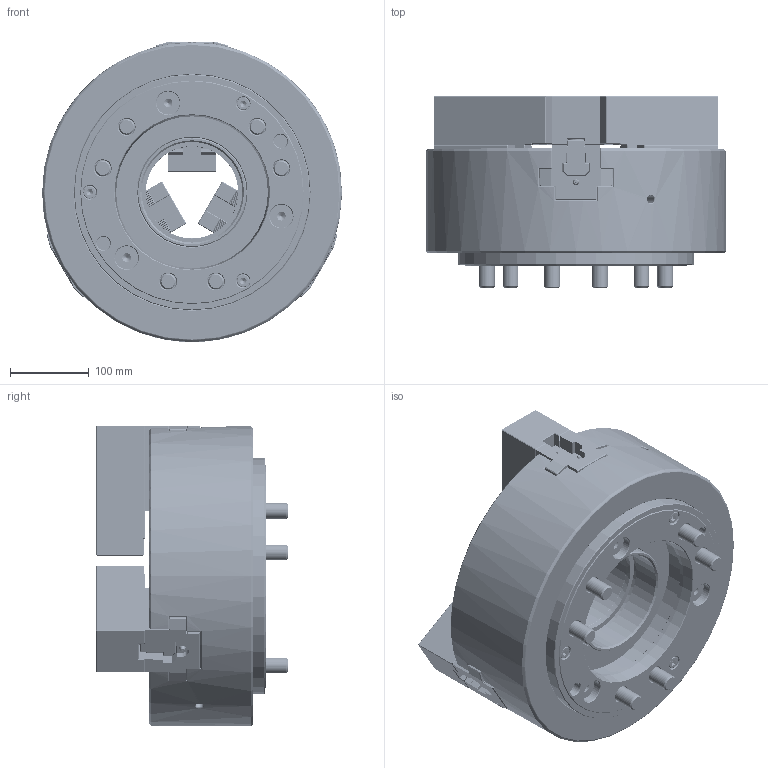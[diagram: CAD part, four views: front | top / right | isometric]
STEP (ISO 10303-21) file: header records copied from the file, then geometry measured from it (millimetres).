
FILE_DESCRIPTION(/* description */ (''),/* implementation_level */ '2;1');
FILE_NAME(/* name */ '\\Itserver\個人資料夾\柯玫如\8.網頁3D討論\1.中空油壓系列\1-1中空油壓夾頭\OP系列\OP-215\OP-215-A11.stp',/* time_stamp */ '2024-08-09T14:52:14+08:00',/* author */ ('034'),/* organization */ (''),/* preprocessor_version */ 'ST-DEVELOPER v16.13',/* originating_system */ 'Autodesk Inventor 2018',/* authorisation */ '');
FILE_SCHEMA (('AUTOMOTIVE_DESIGN { 1 0 10303 214 3 1 1 }'));
Products named in the file (1): OP-215-A11
Bounding box: 381 x 243.29 x 381.69 mm (x, y, z)
Volume: 15052796.3 mm3; surface area: 1039318.9 mm2
Topology: 1 solids, 49 shells, 9339 faces, 30253 edges, 19410 vertices
Faces by surface type: plane 6125, cylinder 2273, bspline 407, cone 403, torus 92, sphere 39
Full cylindrical faces by diameter (mm): 3 x30, 3.4 x6, 4 x24, 4.5 x6, 4.8 x6, 5.1 x7, 5.2 x3, 6 x9, 7 x6, 7.53 x6, 8.6 x5, 10 x9, 10.3 x8, 11 x9, 16 x3, 17 x5, 17.6 x6, 20 x18, 21 x24, 29.4 x3, 30 x14, 32 x12, 60 x2, 117.5 x1, 117.7 x1, 121 x1, 123.4 x1, 128 x1, 131 x1, 137 x1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
Entity records: 332355 total; most frequent: CARTESIAN_POINT 67710, ORIENTED_EDGE 58738, DIRECTION 52186, EDGE_CURVE 29369, LINE 21936, VECTOR 21936, VERTEX_POINT 19088, AXIS2_PLACEMENT_3D 15125
